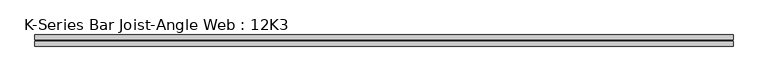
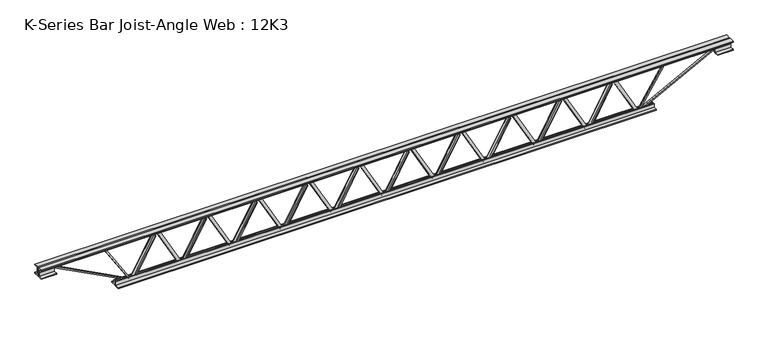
"""IFC4 building model written with IfcOpenShell, lengths in millimetres: beam geometry, K-Series Bar Joist-Angle Web : 12K3."""

from ifc_helpers import new_model, si_unit, frame, origin, place, context, project, spatial, polyline, outline, extrude, faceted_brep, source, transform, mapped, element, save


def k_series_bar_joist_angle_web_12k3_bc085ed2(model_context):
    return source(origin(), model_context, "Body", "SolidModel", [
        extrude(outline(polyline([(-4.7625, 4.7625), (-4.7625, 0.0), (-17.4625, 0.0), (-17.4625, 4.7625), (-4.7625, 4.7625)])), frame((1309.7930061, 0.0, -114.3), z_axis=(-0.48496776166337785, 0.0, 0.8745320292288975), x_axis=(0.0, -1.0, 0.0)), (0.0, 0.0, 1.0), 261.3969441),
        extrude(outline(polyline([(-149.225, 1341.12), (-130.175, 1341.12), (-130.175, 1340.3794939), (149.225, 1185.4394939), (149.225, 1167.13), (130.175, 1167.13), (130.175, 1174.2205061), (-149.225, 1329.1605061), (-149.225, 1341.12)])), frame((0.0, 0.0, 0.0), z_axis=(0.0, 1.0, 0.0), x_axis=(0.0, 0.0, 1.0)), (0.0, 0.0, 1.0), 4.7625),
        faceted_brep([(1005.84, 0.0, -130.175), (1005.84, 0.0, -149.225), (1005.84, -4.7625, -149.225), (1005.84, -4.7625, -130.175), (1006.5805061, 0.0, -130.175), (1161.5205061, 0.0, 149.225), (1179.83, 0.0, 149.225), (1179.83, 0.0, 130.175), (1172.7394939, 0.0, 130.175), (1017.7994939, 0.0, -149.225), (1017.7994939, -4.7625, -149.225), (1037.1669939, -4.7625, -114.3), (1033.0020351, -4.7625, -111.990341), (1159.771126, -4.7625, 116.609659), (1163.9360848, -4.7625, 114.3), (1172.7394939, -4.7625, 130.175), (1179.83, -4.7625, 130.175), (1179.83, -4.7625, 149.225), (1161.5205061, -4.7625, 149.225), (1006.5805061, -4.7625, -130.175), (1163.9360848, -17.4625, 114.3), (1037.1669939, -17.4625, -114.3), (1033.0020351, -17.4625, -111.990341), (1159.771126, -17.4625, 116.609659)], [[[0, 1, 2, 3]], [[1, 0, 4, 5, 6, 7, 8, 9]], [[2, 1, 9, 10]], [[3, 2, 10, 11, 12, 13, 14, 15, 16, 17, 18, 19]], [[0, 3, 19, 4]], [[9, 8, 15, 14, 20, 21, 11, 10]], [[5, 4, 19, 18]], [[7, 6, 17, 16]], [[8, 7, 16, 15]], [[6, 5, 18, 17]], [[21, 22, 12, 11]], [[20, 14, 13, 23]], [[22, 21, 20, 23]], [[12, 22, 23, 13]]]),
        extrude(outline(polyline([(-4.7625, 4.7625), (-4.7625, 0.0), (-17.4625, 0.0), (-17.4625, 4.7625), (-4.7625, 4.7625)])), frame((974.5130061, 0.0, -114.3), z_axis=(-0.48496776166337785, 0.0, 0.8745320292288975), x_axis=(0.0, -1.0, 0.0)), (0.0, 0.0, 1.0), 261.3969441),
        extrude(outline(polyline([(-149.225, 1005.84), (-130.175, 1005.84), (-130.175, 1005.0994939), (149.225, 850.1594939), (149.225, 831.85), (130.175, 831.85), (130.175, 838.9405061), (-149.225, 993.8805061), (-149.225, 1005.84)])), frame((0.0, 0.0, 0.0), z_axis=(0.0, 1.0, 0.0), x_axis=(0.0, 0.0, 1.0)), (0.0, 0.0, 1.0), 4.7625),
        faceted_brep([(670.56, 0.0, -130.175), (670.56, 0.0, -149.225), (670.56, -4.7625, -149.225), (670.56, -4.7625, -130.175), (671.3005061, 0.0, -130.175), (826.2405061, 0.0, 149.225), (844.55, 0.0, 149.225), (844.55, 0.0, 130.175), (837.4594939, 0.0, 130.175), (682.5194939, 0.0, -149.225), (682.5194939, -4.7625, -149.225), (701.8869939, -4.7625, -114.3), (697.7220351, -4.7625, -111.990341), (824.491126, -4.7625, 116.609659), (828.6560848, -4.7625, 114.3), (837.4594939, -4.7625, 130.175), (844.55, -4.7625, 130.175), (844.55, -4.7625, 149.225), (826.2405061, -4.7625, 149.225), (671.3005061, -4.7625, -130.175), (828.6560848, -17.4625, 114.3), (701.8869939, -17.4625, -114.3), (697.7220351, -17.4625, -111.990341), (824.491126, -17.4625, 116.609659)], [[[0, 1, 2, 3]], [[1, 0, 4, 5, 6, 7, 8, 9]], [[2, 1, 9, 10]], [[3, 2, 10, 11, 12, 13, 14, 15, 16, 17, 18, 19]], [[0, 3, 19, 4]], [[9, 8, 15, 14, 20, 21, 11, 10]], [[5, 4, 19, 18]], [[7, 6, 17, 16]], [[8, 7, 16, 15]], [[6, 5, 18, 17]], [[21, 22, 12, 11]], [[20, 14, 13, 23]], [[22, 21, 20, 23]], [[12, 22, 23, 13]]]),
        extrude(outline(polyline([(-4.7625, 4.7625), (-4.7625, 0.0), (-17.4625, 0.0), (-17.4625, 4.7625), (-4.7625, 4.7625)])), frame((639.2330061, 0.0, -114.3), z_axis=(-0.48496776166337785, 0.0, 0.8745320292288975), x_axis=(0.0, -1.0, 0.0)), (0.0, 0.0, 1.0), 261.3969441),
        extrude(outline(polyline([(-149.225, 670.56), (-130.175, 670.56), (-130.175, 669.8194939), (149.225, 514.8794939), (149.225, 496.57), (130.175, 496.57), (130.175, 503.6605061), (-149.225, 658.6005061), (-149.225, 670.56)])), frame((0.0, 0.0, 0.0), z_axis=(0.0, 1.0, 0.0), x_axis=(0.0, 0.0, 1.0)), (0.0, 0.0, 1.0), 4.7625),
        faceted_brep([(335.28, 0.0, -130.175), (335.28, 0.0, -149.225), (335.28, -4.7625, -149.225), (335.28, -4.7625, -130.175), (336.0205061, 0.0, -130.175), (490.9605061, 0.0, 149.225), (509.27, 0.0, 149.225), (509.27, 0.0, 130.175), (502.1794939, 0.0, 130.175), (347.2394939, 0.0, -149.225), (347.2394939, -4.7625, -149.225), (366.6069939, -4.7625, -114.3), (362.4420351, -4.7625, -111.990341), (489.211126, -4.7625, 116.609659), (493.3760848, -4.7625, 114.3), (502.1794939, -4.7625, 130.175), (509.27, -4.7625, 130.175), (509.27, -4.7625, 149.225), (490.9605061, -4.7625, 149.225), (336.0205061, -4.7625, -130.175), (493.3760848, -17.4625, 114.3), (366.6069939, -17.4625, -114.3), (362.4420351, -17.4625, -111.990341), (489.211126, -17.4625, 116.609659)], [[[0, 1, 2, 3]], [[1, 0, 4, 5, 6, 7, 8, 9]], [[2, 1, 9, 10]], [[3, 2, 10, 11, 12, 13, 14, 15, 16, 17, 18, 19]], [[0, 3, 19, 4]], [[9, 8, 15, 14, 20, 21, 11, 10]], [[5, 4, 19, 18]], [[7, 6, 17, 16]], [[8, 7, 16, 15]], [[6, 5, 18, 17]], [[21, 22, 12, 11]], [[20, 14, 13, 23]], [[22, 21, 20, 23]], [[12, 22, 23, 13]]]),
        extrude(outline(polyline([(-4.7625, 4.7625), (-4.7625, 0.0), (-17.4625, 0.0), (-17.4625, 4.7625), (-4.7625, 4.7625)])), frame((303.9530061, 0.0, -114.3), z_axis=(-0.48496776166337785, 0.0, 0.8745320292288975), x_axis=(0.0, -1.0, 0.0)), (0.0, 0.0, 1.0), 261.3969441),
        extrude(outline(polyline([(-149.225, 335.28), (-130.175, 335.28), (-130.175, 334.5394939), (149.225, 179.5994939), (149.225, 161.29), (130.175, 161.29), (130.175, 168.3805061), (-149.225, 323.3205061), (-149.225, 335.28)])), frame((0.0, 0.0, 0.0), z_axis=(0.0, 1.0, 0.0), x_axis=(0.0, 0.0, 1.0)), (0.0, 0.0, 1.0), 4.7625),
        faceted_brep([(0.0, 0.0, -130.175), (0.0, 0.0, -149.225), (0.0, -4.7625, -149.225), (0.0, -4.7625, -130.175), (0.7405061, 0.0, -130.175), (155.6805061, 0.0, 149.225), (173.99, 0.0, 149.225), (173.99, 0.0, 130.175), (166.8994939, 0.0, 130.175), (11.9594939, 0.0, -149.225), (11.9594939, -4.7625, -149.225), (31.3269939, -4.7625, -114.3), (27.1620351, -4.7625, -111.990341), (153.931126, -4.7625, 116.609659), (158.0960848, -4.7625, 114.3), (166.8994939, -4.7625, 130.175), (173.99, -4.7625, 130.175), (173.99, -4.7625, 149.225), (155.6805061, -4.7625, 149.225), (0.7405061, -4.7625, -130.175), (158.0960848, -17.4625, 114.3), (31.3269939, -17.4625, -114.3), (27.1620351, -17.4625, -111.990341), (153.931126, -17.4625, 116.609659)], [[[0, 1, 2, 3]], [[1, 0, 4, 5, 6, 7, 8, 9]], [[2, 1, 9, 10]], [[3, 2, 10, 11, 12, 13, 14, 15, 16, 17, 18, 19]], [[0, 3, 19, 4]], [[9, 8, 15, 14, 20, 21, 11, 10]], [[5, 4, 19, 18]], [[7, 6, 17, 16]], [[8, 7, 16, 15]], [[6, 5, 18, 17]], [[21, 22, 12, 11]], [[20, 14, 13, 23]], [[22, 21, 20, 23]], [[12, 22, 23, 13]]]),
        extrude(outline(polyline([(-4.7625, 4.7625), (-4.7625, 0.0), (-17.4625, 0.0), (-17.4625, 4.7625), (-4.7625, 4.7625)])), frame((-31.3269939, 0.0, -114.3), z_axis=(-0.48496776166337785, 0.0, 0.8745320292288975), x_axis=(0.0, -1.0, 0.0)), (0.0, 0.0, 1.0), 261.3969441),
        extrude(outline(polyline([(-149.225, 0.0), (-130.175, 0.0), (-130.175, -0.7405061), (149.225, -155.6805061), (149.225, -173.99), (130.175, -173.99), (130.175, -166.8994939), (-149.225, -11.9594939), (-149.225, 0.0)])), frame((0.0, 0.0, 0.0), z_axis=(0.0, 1.0, 0.0), x_axis=(0.0, 0.0, 1.0)), (0.0, 0.0, 1.0), 4.7625),
        faceted_brep([(-335.28, 0.0, -130.175), (-335.28, 0.0, -149.225), (-335.28, -4.7625, -149.225), (-335.28, -4.7625, -130.175), (-334.5394939, 0.0, -130.175), (-179.5994939, 0.0, 149.225), (-161.29, 0.0, 149.225), (-161.29, 0.0, 130.175), (-168.3805061, 0.0, 130.175), (-323.3205061, 0.0, -149.225), (-323.3205061, -4.7625, -149.225), (-303.9530061, -4.7625, -114.3), (-308.1179649, -4.7625, -111.990341), (-181.348874, -4.7625, 116.609659), (-177.1839152, -4.7625, 114.3), (-168.3805061, -4.7625, 130.175), (-161.29, -4.7625, 130.175), (-161.29, -4.7625, 149.225), (-179.5994939, -4.7625, 149.225), (-334.5394939, -4.7625, -130.175), (-177.1839152, -17.4625, 114.3), (-303.9530061, -17.4625, -114.3), (-308.1179649, -17.4625, -111.990341), (-181.348874, -17.4625, 116.609659)], [[[0, 1, 2, 3]], [[1, 0, 4, 5, 6, 7, 8, 9]], [[2, 1, 9, 10]], [[3, 2, 10, 11, 12, 13, 14, 15, 16, 17, 18, 19]], [[0, 3, 19, 4]], [[9, 8, 15, 14, 20, 21, 11, 10]], [[5, 4, 19, 18]], [[7, 6, 17, 16]], [[8, 7, 16, 15]], [[6, 5, 18, 17]], [[21, 22, 12, 11]], [[20, 14, 13, 23]], [[22, 21, 20, 23]], [[12, 22, 23, 13]]]),
        extrude(outline(polyline([(-4.7625, 4.7625), (-4.7625, 0.0), (-17.4625, 0.0), (-17.4625, 4.7625), (-4.7625, 4.7625)])), frame((-366.6069939, 0.0, -114.3), z_axis=(-0.48496776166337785, 0.0, 0.8745320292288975), x_axis=(0.0, -1.0, 0.0)), (0.0, 0.0, 1.0), 261.3969441),
        extrude(outline(polyline([(-149.225, -335.28), (-130.175, -335.28), (-130.175, -336.0205061), (149.225, -490.9605061), (149.225, -509.27), (130.175, -509.27), (130.175, -502.1794939), (-149.225, -347.2394939), (-149.225, -335.28)])), frame((0.0, 0.0, 0.0), z_axis=(0.0, 1.0, 0.0), x_axis=(0.0, 0.0, 1.0)), (0.0, 0.0, 1.0), 4.7625),
        faceted_brep([(-670.56, 0.0, -130.175), (-670.56, 0.0, -149.225), (-670.56, -4.7625, -149.225), (-670.56, -4.7625, -130.175), (-669.8194939, 0.0, -130.175), (-514.8794939, 0.0, 149.225), (-496.57, 0.0, 149.225), (-496.57, 0.0, 130.175), (-503.6605061, 0.0, 130.175), (-658.6005061, 0.0, -149.225), (-658.6005061, -4.7625, -149.225), (-639.2330061, -4.7625, -114.3), (-643.3979649, -4.7625, -111.990341), (-516.628874, -4.7625, 116.609659), (-512.4639152, -4.7625, 114.3), (-503.6605061, -4.7625, 130.175), (-496.57, -4.7625, 130.175), (-496.57, -4.7625, 149.225), (-514.8794939, -4.7625, 149.225), (-669.8194939, -4.7625, -130.175), (-512.4639152, -17.4625, 114.3), (-639.2330061, -17.4625, -114.3), (-643.3979649, -17.4625, -111.990341), (-516.628874, -17.4625, 116.609659)], [[[0, 1, 2, 3]], [[1, 0, 4, 5, 6, 7, 8, 9]], [[2, 1, 9, 10]], [[3, 2, 10, 11, 12, 13, 14, 15, 16, 17, 18, 19]], [[0, 3, 19, 4]], [[9, 8, 15, 14, 20, 21, 11, 10]], [[5, 4, 19, 18]], [[7, 6, 17, 16]], [[8, 7, 16, 15]], [[6, 5, 18, 17]], [[21, 22, 12, 11]], [[20, 14, 13, 23]], [[22, 21, 20, 23]], [[12, 22, 23, 13]]]),
        extrude(outline(polyline([(-4.7625, 4.7625), (-4.7625, 0.0), (-17.4625, 0.0), (-17.4625, 4.7625), (-4.7625, 4.7625)])), frame((-701.8869939, 0.0, -114.3), z_axis=(-0.48496776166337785, 0.0, 0.8745320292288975), x_axis=(0.0, -1.0, 0.0)), (0.0, 0.0, 1.0), 261.3969441),
        extrude(outline(polyline([(-149.225, -670.56), (-130.175, -670.56), (-130.175, -671.3005061), (149.225, -826.2405061), (149.225, -844.55), (130.175, -844.55), (130.175, -837.4594939), (-149.225, -682.5194939), (-149.225, -670.56)])), frame((0.0, 0.0, 0.0), z_axis=(0.0, 1.0, 0.0), x_axis=(0.0, 0.0, 1.0)), (0.0, 0.0, 1.0), 4.7625),
        faceted_brep([(-1005.84, 0.0, -130.175), (-1005.84, 0.0, -149.225), (-1005.84, -4.7625, -149.225), (-1005.84, -4.7625, -130.175), (-1005.0994939, 0.0, -130.175), (-850.1594939, 0.0, 149.225), (-831.85, 0.0, 149.225), (-831.85, 0.0, 130.175), (-838.9405061, 0.0, 130.175), (-993.8805061, 0.0, -149.225), (-993.8805061, -4.7625, -149.225), (-974.5130061, -4.7625, -114.3), (-978.6779649, -4.7625, -111.990341), (-851.908874, -4.7625, 116.609659), (-847.7439152, -4.7625, 114.3), (-838.9405061, -4.7625, 130.175), (-831.85, -4.7625, 130.175), (-831.85, -4.7625, 149.225), (-850.1594939, -4.7625, 149.225), (-1005.0994939, -4.7625, -130.175), (-847.7439152, -17.4625, 114.3), (-974.5130061, -17.4625, -114.3), (-978.6779649, -17.4625, -111.990341), (-851.908874, -17.4625, 116.609659)], [[[0, 1, 2, 3]], [[1, 0, 4, 5, 6, 7, 8, 9]], [[2, 1, 9, 10]], [[3, 2, 10, 11, 12, 13, 14, 15, 16, 17, 18, 19]], [[0, 3, 19, 4]], [[9, 8, 15, 14, 20, 21, 11, 10]], [[5, 4, 19, 18]], [[7, 6, 17, 16]], [[8, 7, 16, 15]], [[6, 5, 18, 17]], [[21, 22, 12, 11]], [[20, 14, 13, 23]], [[22, 21, 20, 23]], [[12, 22, 23, 13]]]),
        extrude(outline(polyline([(-4.7625, 4.7625), (-4.7625, 0.0), (-17.4625, 0.0), (-17.4625, 4.7625), (-4.7625, 4.7625)])), frame((-1037.1669939, 0.0, -114.3), z_axis=(-0.48496776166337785, 0.0, 0.8745320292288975), x_axis=(0.0, -1.0, 0.0)), (0.0, 0.0, 1.0), 261.3969441),
        extrude(outline(polyline([(-149.225, -1005.84), (-130.175, -1005.84), (-130.175, -1006.5805061), (149.225, -1161.5205061), (149.225, -1179.83), (130.175, -1179.83), (130.175, -1172.7394939), (-149.225, -1017.7994939), (-149.225, -1005.84)])), frame((0.0, 0.0, 0.0), z_axis=(0.0, 1.0, 0.0), x_axis=(0.0, 0.0, 1.0)), (0.0, 0.0, 1.0), 4.7625),
        faceted_brep([(-1341.12, 0.0, -130.175), (-1341.12, 0.0, -149.225), (-1341.12, -4.7625, -149.225), (-1341.12, -4.7625, -130.175), (-1340.3794939, 0.0, -130.175), (-1185.4394939, 0.0, 149.225), (-1167.13, 0.0, 149.225), (-1167.13, 0.0, 130.175), (-1174.2205061, 0.0, 130.175), (-1329.1605061, 0.0, -149.225), (-1329.1605061, -4.7625, -149.225), (-1309.7930061, -4.7625, -114.3), (-1313.9579649, -4.7625, -111.990341), (-1187.188874, -4.7625, 116.609659), (-1183.0239152, -4.7625, 114.3), (-1174.2205061, -4.7625, 130.175), (-1167.13, -4.7625, 130.175), (-1167.13, -4.7625, 149.225), (-1185.4394939, -4.7625, 149.225), (-1340.3794939, -4.7625, -130.175), (-1183.0239152, -17.4625, 114.3), (-1309.7930061, -17.4625, -114.3), (-1313.9579649, -17.4625, -111.990341), (-1187.188874, -17.4625, 116.609659)], [[[0, 1, 2, 3]], [[1, 0, 4, 5, 6, 7, 8, 9]], [[2, 1, 9, 10]], [[3, 2, 10, 11, 12, 13, 14, 15, 16, 17, 18, 19]], [[0, 3, 19, 4]], [[9, 8, 15, 14, 20, 21, 11, 10]], [[5, 4, 19, 18]], [[7, 6, 17, 16]], [[8, 7, 16, 15]], [[6, 5, 18, 17]], [[21, 22, 12, 11]], [[20, 14, 13, 23]], [[22, 21, 20, 23]], [[12, 22, 23, 13]]]),
        extrude(outline(polyline([(-4.7625, 4.7625), (-4.7625, 0.0), (-17.4625, 0.0), (-17.4625, 4.7625), (-4.7625, 4.7625)])), frame((1645.0730061, 0.0, -114.3), z_axis=(-0.48496776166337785, 0.0, 0.8745320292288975), x_axis=(0.0, -1.0, 0.0)), (0.0, 0.0, 1.0), 261.3969441),
        extrude(outline(polyline([(-149.225, 1676.4), (-130.175, 1676.4), (-130.175, 1675.6594939), (149.225, 1520.7194939), (149.225, 1502.41), (130.175, 1502.41), (130.175, 1509.5005061), (-149.225, 1664.4405061), (-149.225, 1676.4)])), frame((0.0, 0.0, 0.0), z_axis=(0.0, 1.0, 0.0), x_axis=(0.0, 0.0, 1.0)), (0.0, 0.0, 1.0), 4.7625),
        faceted_brep([(1341.12, 0.0, -130.175), (1341.12, 0.0, -149.225), (1341.12, -4.7625, -149.225), (1341.12, -4.7625, -130.175), (1341.8605061, 0.0, -130.175), (1496.8005061, 0.0, 149.225), (1515.11, 0.0, 149.225), (1515.11, 0.0, 130.175), (1508.0194939, 0.0, 130.175), (1353.0794939, 0.0, -149.225), (1353.0794939, -4.7625, -149.225), (1372.4469939, -4.7625, -114.3), (1368.2820351, -4.7625, -111.990341), (1495.051126, -4.7625, 116.609659), (1499.2160848, -4.7625, 114.3), (1508.0194939, -4.7625, 130.175), (1515.11, -4.7625, 130.175), (1515.11, -4.7625, 149.225), (1496.8005061, -4.7625, 149.225), (1341.8605061, -4.7625, -130.175), (1499.2160848, -17.4625, 114.3), (1372.4469939, -17.4625, -114.3), (1368.2820351, -17.4625, -111.990341), (1495.051126, -17.4625, 116.609659)], [[[0, 1, 2, 3]], [[1, 0, 4, 5, 6, 7, 8, 9]], [[2, 1, 9, 10]], [[3, 2, 10, 11, 12, 13, 14, 15, 16, 17, 18, 19]], [[0, 3, 19, 4]], [[9, 8, 15, 14, 20, 21, 11, 10]], [[5, 4, 19, 18]], [[7, 6, 17, 16]], [[8, 7, 16, 15]], [[6, 5, 18, 17]], [[21, 22, 12, 11]], [[20, 14, 13, 23]], [[22, 21, 20, 23]], [[12, 22, 23, 13]]]),
        extrude(outline(polyline([(-4.7625, 4.7625), (-4.7625, 0.0), (-17.4625, 0.0), (-17.4625, 4.7625), (-4.7625, 4.7625)])), frame((-1372.4469939, 0.0, -114.3), z_axis=(-0.48496776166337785, 0.0, 0.8745320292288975), x_axis=(0.0, -1.0, 0.0)), (0.0, 0.0, 1.0), 261.3969441),
        extrude(outline(polyline([(-149.225, -1341.12), (-130.175, -1341.12), (-130.175, -1341.8605061), (149.225, -1496.8005061), (149.225, -1515.11), (130.175, -1515.11), (130.175, -1508.0194939), (-149.225, -1353.0794939), (-149.225, -1341.12)])), frame((0.0, 0.0, 0.0), z_axis=(0.0, 1.0, 0.0), x_axis=(0.0, 0.0, 1.0)), (0.0, 0.0, 1.0), 4.7625),
        faceted_brep([(-1676.4, 0.0, -130.175), (-1676.4, 0.0, -149.225), (-1676.4, -4.7625, -149.225), (-1676.4, -4.7625, -130.175), (-1675.6594939, 0.0, -130.175), (-1520.7194939, 0.0, 149.225), (-1502.41, 0.0, 149.225), (-1502.41, 0.0, 130.175), (-1509.5005061, 0.0, 130.175), (-1664.4405061, 0.0, -149.225), (-1664.4405061, -4.7625, -149.225), (-1645.0730061, -4.7625, -114.3), (-1649.2379649, -4.7625, -111.990341), (-1522.468874, -4.7625, 116.609659), (-1518.3039152, -4.7625, 114.3), (-1509.5005061, -4.7625, 130.175), (-1502.41, -4.7625, 130.175), (-1502.41, -4.7625, 149.225), (-1520.7194939, -4.7625, 149.225), (-1675.6594939, -4.7625, -130.175), (-1518.3039152, -17.4625, 114.3), (-1645.0730061, -17.4625, -114.3), (-1649.2379649, -17.4625, -111.990341), (-1522.468874, -17.4625, 116.609659)], [[[0, 1, 2, 3]], [[1, 0, 4, 5, 6, 7, 8, 9]], [[2, 1, 9, 10]], [[3, 2, 10, 11, 12, 13, 14, 15, 16, 17, 18, 19]], [[0, 3, 19, 4]], [[9, 8, 15, 14, 20, 21, 11, 10]], [[5, 4, 19, 18]], [[7, 6, 17, 16]], [[8, 7, 16, 15]], [[6, 5, 18, 17]], [[21, 22, 12, 11]], [[20, 14, 13, 23]], [[22, 21, 20, 23]], [[12, 22, 23, 13]]]),
        extrude(outline(polyline([(4.7625, 152.4), (36.5125, 152.4), (36.5125, 146.05), (11.1125, 146.05), (11.1125, 120.65), (4.7625, 120.65), (4.7625, 152.4)])), frame((-2286.0, 0.0, 0.0), z_axis=(1.0, 0.0, 0.0), x_axis=(0.0, 1.0, 0.0)), (0.0, 0.0, 1.0), 4572.0),
        extrude(outline(polyline([(-4.7625, 152.4), (-4.7625, 120.65), (-11.1125, 120.65), (-11.1125, 146.05), (-36.5125, 146.05), (-36.5125, 152.4), (-4.7625, 152.4)])), frame((-2286.0, 0.0, 0.0), z_axis=(1.0, 0.0, 0.0), x_axis=(0.0, 1.0, 0.0)), (0.0, 0.0, 1.0), 4572.0),
        extrude(outline(polyline([(-4.7625, 88.9), (-36.5125, 88.9), (-36.5125, 95.25), (-11.1125, 95.25), (-11.1125, 120.65), (-4.7625, 120.65), (-4.7625, 88.9)])), frame((-2286.0, 0.0, 0.0), z_axis=(1.0, 0.0, 0.0), x_axis=(0.0, 1.0, 0.0)), (0.0, 0.0, 1.0), 101.6),
        extrude(outline(polyline([(36.5125, 88.9), (4.7625, 88.9), (4.7625, 120.65), (11.1125, 120.65), (11.1125, 95.25), (36.5125, 95.25), (36.5125, 88.9)])), frame((-2286.0, 0.0, 0.0), z_axis=(1.0, 0.0, 0.0), x_axis=(0.0, 1.0, 0.0)), (0.0, 0.0, 1.0), 101.6),
        extrude(outline(polyline([(4.7625, 88.9), (4.7625, 120.65), (11.1125, 120.65), (11.1125, 95.25), (36.5125, 95.25), (36.5125, 88.9), (4.7625, 88.9)])), frame((2184.4, 0.0, 0.0), z_axis=(1.0, 0.0, 0.0), x_axis=(0.0, 1.0, 0.0)), (0.0, 0.0, 1.0), 101.6),
        extrude(outline(polyline([(-4.7625, 88.9), (-36.5125, 88.9), (-36.5125, 95.25), (-11.1125, 95.25), (-11.1125, 120.65), (-4.7625, 120.65), (-4.7625, 88.9)])), frame((2184.4, 0.0, 0.0), z_axis=(1.0, 0.0, 0.0), x_axis=(0.0, 1.0, 0.0)), (0.0, 0.0, 1.0), 101.6),
        extrude(outline(polyline([(4.7625, -152.4), (4.7625, -120.65), (11.1125, -120.65), (11.1125, -146.05), (36.5125, -146.05), (36.5125, -152.4), (4.7625, -152.4)])), frame((-1778.0, 0.0, 0.0), z_axis=(1.0, 0.0, 0.0), x_axis=(0.0, 1.0, 0.0)), (0.0, 0.0, 1.0), 3556.0),
        extrude(outline(polyline([(-4.7625, -152.4), (-36.5125, -152.4), (-36.5125, -146.05), (-11.1125, -146.05), (-11.1125, -120.65), (-4.7625, -120.65), (-4.7625, -152.4)])), frame((-1778.0, 0.0, 0.0), z_axis=(1.0, 0.0, 0.0), x_axis=(0.0, 1.0, 0.0)), (0.0, 0.0, 1.0), 3556.0),
        extrude(outline(polyline([(4.7625, 4.7625), (4.7625, -4.7625), (-4.7625, -4.7625), (-4.7625, 4.7625), (4.7625, 4.7625)])), frame((1676.4, 0.0, -146.05), z_axis=(0.5321715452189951, 0.0, 0.8466365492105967), x_axis=(0.0, -1.0, 0.0)), (0.0, 0.0, 1.0), 315.0112055),
        extrude(outline(polyline([(4.7625, 4.7625), (4.7625, -4.7625), (-4.7625, -4.7625), (-4.7625, 4.7625), (4.7625, 4.7625)])), frame((-1676.4, 0.0, -146.05), z_axis=(-0.5321715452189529, 0.0, 0.8466365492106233), x_axis=(0.0, -1.0, 0.0)), (0.0, 0.0, 1.0), 315.0112055),
        extrude(outline(polyline([(0.0, -9.525), (0.0, 0.0), (573.7533355, 0.0), (573.7533355, -9.525), (0.0, -9.525)])), frame((2186.6137714, -4.7625, 116.4332925), z_axis=(-0.464833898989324, 0.0, 0.8853979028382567), x_axis=(-0.8853979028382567, 0.0, -0.464833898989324)), (0.0, 0.0, 1.0), 9.525),
        extrude(outline(polyline([(0.0, -9.525), (0.0, 0.0), (573.7533355, 0.0), (573.7533355, -9.525), (0.0, -9.525)])), frame((-2186.6137714, 4.7625, 116.4332925), z_axis=(0.46483389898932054, 0.0, 0.8853979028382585), x_axis=(0.8853979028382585, 0.0, -0.46483389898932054)), (0.0, 0.0, 1.0), 9.525),
    ])


if __name__ == "__main__":
    model = new_model("IFC4")
    model_context = context("Model", 3, world=origin())
    ifc_project = project(units=[si_unit("LENGTHUNIT", "METRE", prefix="MILLI")], contexts=[model_context])
    site = spatial("IfcSite", under=ifc_project)
    building = spatial("IfcBuilding", under=site)
    placement = place(None, origin())
    k_series_bar_joist_angle_web_12k3_shape = k_series_bar_joist_angle_web_12k3_bc085ed2(model_context)
    element("IfcBeam", 1, ObjectType="K-Series Bar Joist-Angle Web : 12K3", at=placement, inside=building, context=model_context, shape_type="MappedRepresentation", body=[
        mapped(k_series_bar_joist_angle_web_12k3_shape, transform((0.0, 0.0, 0.0), x_axis=(1.0, 0.0, 0.0), y_axis=(0.0, 1.0, 0.0), z_axis=(0.0, 0.0, 1.0))),
    ])
    save(model, "model.ifc")
